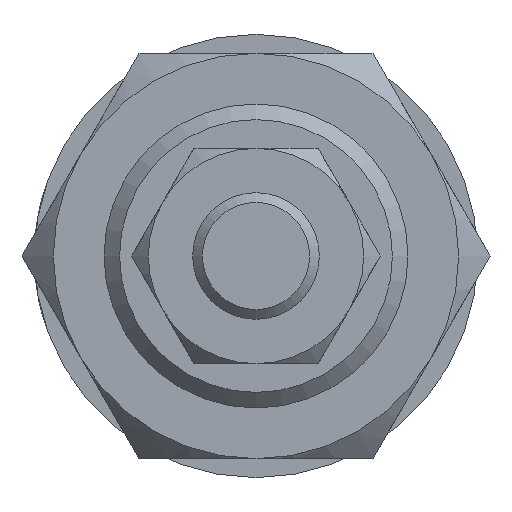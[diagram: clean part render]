
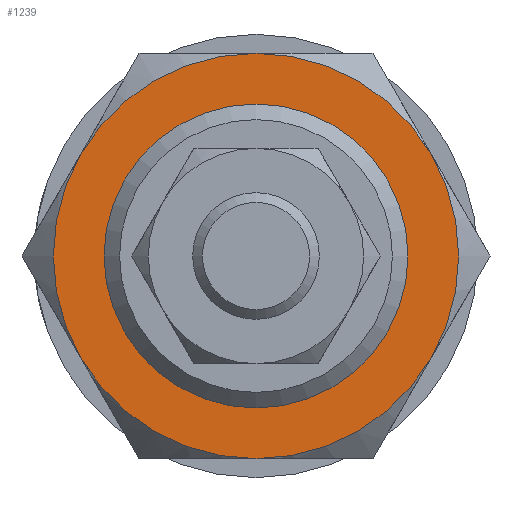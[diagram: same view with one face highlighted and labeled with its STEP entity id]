
A CAD part, left-side view. The second image highlights one B-rep face of the part: STEP entity #1239.
In plain terms, the highlighted planar face has unit normal (-1, 0, 0).
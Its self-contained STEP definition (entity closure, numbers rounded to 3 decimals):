
#160=PLANE('',#1378);
#366=ORIENTED_EDGE('',*,*,#619,.T.);
#367=ORIENTED_EDGE('',*,*,#624,.F.);
#368=ORIENTED_EDGE('',*,*,#623,.F.);
#369=ORIENTED_EDGE('',*,*,#625,.F.);
#370=ORIENTED_EDGE('',*,*,#622,.F.);
#371=ORIENTED_EDGE('',*,*,#621,.F.);
#372=ORIENTED_EDGE('',*,*,#620,.F.);
#619=EDGE_CURVE('',#767,#767,#852,.T.);
#620=EDGE_CURVE('',#759,#757,#853,.T.);
#621=EDGE_CURVE('',#757,#754,#854,.T.);
#622=EDGE_CURVE('',#754,#764,#855,.T.);
#623=EDGE_CURVE('',#763,#761,#856,.T.);
#624=EDGE_CURVE('',#761,#759,#857,.T.);
#625=EDGE_CURVE('',#764,#763,#858,.T.);
#754=VERTEX_POINT('',#2044);
#757=VERTEX_POINT('',#2061);
#759=VERTEX_POINT('',#2076);
#761=VERTEX_POINT('',#2090);
#763=VERTEX_POINT('',#2105);
#764=VERTEX_POINT('',#2119);
#767=VERTEX_POINT('',#2133);
#852=CIRCLE('',#1367,12.);
#853=CIRCLE('',#1369,16.);
#854=CIRCLE('',#1371,16.);
#855=CIRCLE('',#1373,16.);
#856=CIRCLE('',#1375,16.);
#857=CIRCLE('',#1377,16.);
#858=CIRCLE('',#1379,16.);
#964=EDGE_LOOP('',(#366));
#965=EDGE_LOOP('',(#367,#368,#369,#370,#371,#372));
#1105=FACE_BOUND('',#964,.T.);
#1106=FACE_BOUND('',#965,.T.);
#1239=ADVANCED_FACE('',(#1105,#1106),#160,.F.);
#1367=AXIS2_PLACEMENT_3D('',#2132,#1625,#1626);
#1369=AXIS2_PLACEMENT_3D('',#2135,#1629,#1630);
#1371=AXIS2_PLACEMENT_3D('',#2137,#1633,#1634);
#1373=AXIS2_PLACEMENT_3D('',#2139,#1637,#1638);
#1375=AXIS2_PLACEMENT_3D('',#2141,#1641,#1642);
#1377=AXIS2_PLACEMENT_3D('',#2143,#1645,#1646);
#1378=AXIS2_PLACEMENT_3D('',#2144,#1647,#1648);
#1379=AXIS2_PLACEMENT_3D('',#2145,#1649,#1650);
#1625=DIRECTION('',(1.,0.,0.));
#1626=DIRECTION('',(0.,0.,-1.));
#1629=DIRECTION('',(1.,0.,0.));
#1630=DIRECTION('',(0.,0.,-1.));
#1633=DIRECTION('',(1.,0.,0.));
#1634=DIRECTION('',(0.,0.,-1.));
#1637=DIRECTION('',(1.,0.,0.));
#1638=DIRECTION('',(0.,0.,-1.));
#1641=DIRECTION('',(1.,0.,0.));
#1642=DIRECTION('',(0.,0.,-1.));
#1645=DIRECTION('',(1.,0.,0.));
#1646=DIRECTION('',(0.,0.,-1.));
#1647=DIRECTION('',(1.,0.,0.));
#1648=DIRECTION('',(0.,0.,-1.));
#1649=DIRECTION('',(1.,0.,0.));
#1650=DIRECTION('',(0.,0.,-1.));
#2044=CARTESIAN_POINT('',(-10.,0.,16.));
#2061=CARTESIAN_POINT('',(-10.,13.856,8.));
#2076=CARTESIAN_POINT('',(-10.,13.856,-8.));
#2090=CARTESIAN_POINT('',(-10.,0.,-16.));
#2105=CARTESIAN_POINT('',(-10.,-13.856,-8.));
#2119=CARTESIAN_POINT('',(-10.,-13.856,8.));
#2132=CARTESIAN_POINT('',(-10.,0.,0.));
#2133=CARTESIAN_POINT('',(-10.,0.,-12.));
#2135=CARTESIAN_POINT('',(-10.,0.,0.));
#2137=CARTESIAN_POINT('',(-10.,0.,0.));
#2139=CARTESIAN_POINT('',(-10.,0.,0.));
#2141=CARTESIAN_POINT('',(-10.,0.,0.));
#2143=CARTESIAN_POINT('',(-10.,0.,0.));
#2144=CARTESIAN_POINT('',(-10.,0.,0.));
#2145=CARTESIAN_POINT('',(-10.,0.,0.));
